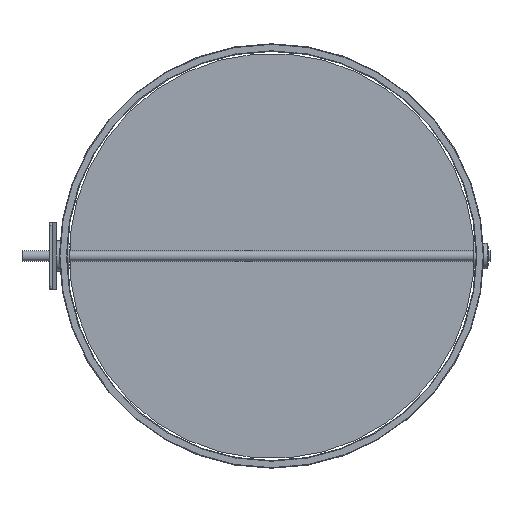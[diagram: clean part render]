
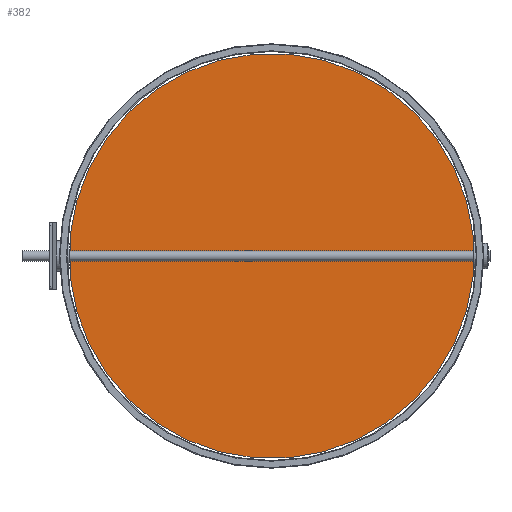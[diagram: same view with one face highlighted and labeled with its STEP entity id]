
A CAD part, left-side view. The second image highlights one B-rep face of the part: STEP entity #382.
In plain terms, the highlighted planar face has unit normal (-1, 0, 0).
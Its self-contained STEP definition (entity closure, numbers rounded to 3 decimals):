
#109=LINE('',#1714,#157);
#114=LINE('',#1728,#162);
#157=VECTOR('',#1363,1.);
#162=VECTOR('',#1376,1.);
#270=FACE_BOUND('',#535,.T.);
#271=FACE_BOUND('',#536,.T.);
#272=FACE_BOUND('',#537,.T.);
#273=FACE_BOUND('',#538,.T.);
#274=FACE_BOUND('',#539,.T.);
#275=FACE_BOUND('',#540,.T.);
#276=FACE_BOUND('',#541,.T.);
#277=FACE_BOUND('',#542,.T.);
#382=ADVANCED_FACE('',(#270,#271,#272,#273,#274,#275,#276,#277),#451,.T.);
#451=PLANE('',#1232);
#535=EDGE_LOOP('',(#691,#692,#693,#694));
#536=EDGE_LOOP('',(#695));
#537=EDGE_LOOP('',(#696));
#538=EDGE_LOOP('',(#697));
#539=EDGE_LOOP('',(#698));
#540=EDGE_LOOP('',(#699));
#541=EDGE_LOOP('',(#700));
#542=EDGE_LOOP('',(#701));
#691=ORIENTED_EDGE('',*,*,#1026,.T.);
#692=ORIENTED_EDGE('',*,*,#1005,.T.);
#693=ORIENTED_EDGE('',*,*,#1009,.T.);
#694=ORIENTED_EDGE('',*,*,#1012,.T.);
#695=ORIENTED_EDGE('',*,*,#1023,.T.);
#696=ORIENTED_EDGE('',*,*,#1021,.F.);
#697=ORIENTED_EDGE('',*,*,#1019,.F.);
#698=ORIENTED_EDGE('',*,*,#1017,.F.);
#699=ORIENTED_EDGE('',*,*,#1015,.F.);
#700=ORIENTED_EDGE('',*,*,#1013,.F.);
#701=ORIENTED_EDGE('',*,*,#1027,.F.);
#909=VERTEX_POINT('',#1713);
#910=VERTEX_POINT('',#1715);
#912=VERTEX_POINT('',#1721);
#914=VERTEX_POINT('',#1727);
#915=VERTEX_POINT('',#1731);
#917=VERTEX_POINT('',#1736);
#919=VERTEX_POINT('',#1741);
#921=VERTEX_POINT('',#1746);
#923=VERTEX_POINT('',#1751);
#925=VERTEX_POINT('',#1756);
#927=VERTEX_POINT('',#1764);
#1005=EDGE_CURVE('',#910,#909,#109,.T.);
#1009=EDGE_CURVE('',#909,#912,#1128,.T.);
#1012=EDGE_CURVE('',#912,#914,#114,.T.);
#1013=EDGE_CURVE('',#915,#915,#1129,.T.);
#1015=EDGE_CURVE('',#917,#917,#1131,.T.);
#1017=EDGE_CURVE('',#919,#919,#1133,.T.);
#1019=EDGE_CURVE('',#921,#921,#1135,.T.);
#1021=EDGE_CURVE('',#923,#923,#1137,.T.);
#1023=EDGE_CURVE('',#925,#925,#1139,.T.);
#1026=EDGE_CURVE('',#914,#910,#1142,.T.);
#1027=EDGE_CURVE('',#927,#927,#1143,.T.);
#1128=CIRCLE('',#1205,396.);
#1129=CIRCLE('',#1208,4.05);
#1131=CIRCLE('',#1211,4.05);
#1133=CIRCLE('',#1214,4.05);
#1135=CIRCLE('',#1217,4.05);
#1137=CIRCLE('',#1220,4.05);
#1139=CIRCLE('',#1223,4.05);
#1142=CIRCLE('',#1227,396.);
#1143=CIRCLE('',#1229,4.05);
#1205=AXIS2_PLACEMENT_3D('',#1722,#1370,#1371);
#1208=AXIS2_PLACEMENT_3D('',#1730,#1379,#1380);
#1211=AXIS2_PLACEMENT_3D('',#1735,#1385,#1386);
#1214=AXIS2_PLACEMENT_3D('',#1740,#1391,#1392);
#1217=AXIS2_PLACEMENT_3D('',#1745,#1397,#1398);
#1220=AXIS2_PLACEMENT_3D('',#1750,#1403,#1404);
#1223=AXIS2_PLACEMENT_3D('',#1755,#1409,#1410);
#1227=AXIS2_PLACEMENT_3D('',#1761,#1417,#1418);
#1229=AXIS2_PLACEMENT_3D('',#1763,#1421,#1422);
#1232=AXIS2_PLACEMENT_3D('',#1768,#1427,#1428);
#1363=DIRECTION('',(0.,0.,1.));
#1370=DIRECTION('',(-1.,0.,0.));
#1371=DIRECTION('',(0.,0.,1.));
#1376=DIRECTION('',(0.,0.,-1.));
#1379=DIRECTION('',(-1.,0.,0.));
#1380=DIRECTION('',(0.,0.,1.));
#1385=DIRECTION('',(-1.,0.,0.));
#1386=DIRECTION('',(0.,0.,1.));
#1391=DIRECTION('',(-1.,0.,0.));
#1392=DIRECTION('',(0.,0.,1.));
#1397=DIRECTION('',(-1.,0.,0.));
#1398=DIRECTION('',(0.,0.,1.));
#1403=DIRECTION('',(-1.,0.,0.));
#1404=DIRECTION('',(0.,0.,1.));
#1409=DIRECTION('',(1.,0.,0.));
#1410=DIRECTION('',(0.,0.,1.));
#1417=DIRECTION('',(-1.,0.,0.));
#1418=DIRECTION('',(0.,0.,1.));
#1421=DIRECTION('',(-1.,0.,0.));
#1422=DIRECTION('',(0.,0.,1.));
#1427=DIRECTION('',(-1.,0.,0.));
#1428=DIRECTION('',(0.,0.,1.));
#1713=CARTESIAN_POINT('',(-0.5,-503.,164.749));
#1714=CARTESIAN_POINT('',(-0.5,-503.,85.251));
#1715=CARTESIAN_POINT('',(-0.5,-503.,85.251));
#1721=CARTESIAN_POINT('',(-0.5,285.,164.749));
#1722=CARTESIAN_POINT('',(-0.5,-109.,125.));
#1727=CARTESIAN_POINT('',(-0.5,285.,85.251));
#1728=CARTESIAN_POINT('',(-0.5,285.,164.749));
#1730=CARTESIAN_POINT('',(-0.5,231.,125.));
#1731=CARTESIAN_POINT('',(-0.5,231.,129.05));
#1735=CARTESIAN_POINT('',(-0.5,-449.,125.));
#1736=CARTESIAN_POINT('',(-0.5,-449.,129.05));
#1740=CARTESIAN_POINT('',(-0.5,61.,125.));
#1741=CARTESIAN_POINT('',(-0.5,61.,129.05));
#1745=CARTESIAN_POINT('',(-0.5,-279.,125.));
#1746=CARTESIAN_POINT('',(-0.5,-279.,129.05));
#1750=CARTESIAN_POINT('',(-0.5,-109.,125.));
#1751=CARTESIAN_POINT('',(-0.5,-109.,129.05));
#1755=CARTESIAN_POINT('',(-0.5,-479.,125.));
#1756=CARTESIAN_POINT('',(-0.5,-479.,129.05));
#1761=CARTESIAN_POINT('',(-0.5,-109.,125.));
#1763=CARTESIAN_POINT('',(-0.5,261.,125.));
#1764=CARTESIAN_POINT('',(-0.5,261.,129.05));
#1768=CARTESIAN_POINT('',(-0.5,-109.,125.));
